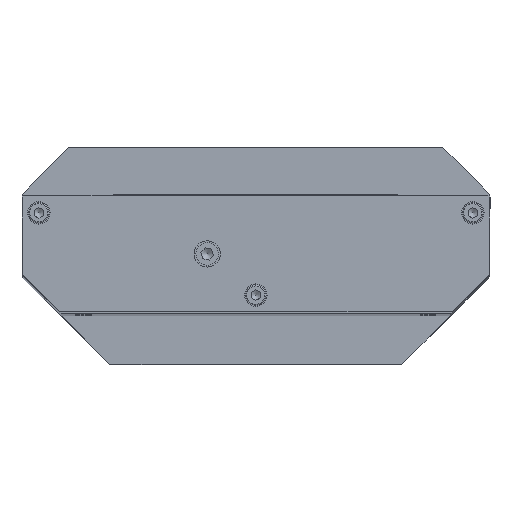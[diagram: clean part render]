
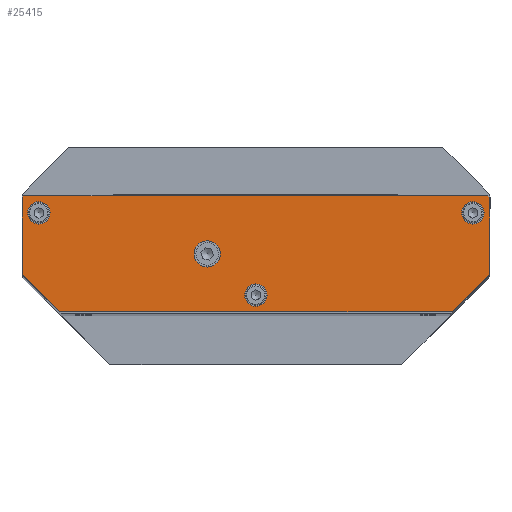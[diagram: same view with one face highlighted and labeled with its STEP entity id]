
A CAD part, top view. The second image highlights one B-rep face of the part: STEP entity #25415.
In plain terms, the highlighted planar face has unit normal (0, 0, 1).
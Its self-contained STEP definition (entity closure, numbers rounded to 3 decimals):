
#25300=CARTESIAN_POINT('',(62.5,-14.757,9.0));
#25301=DIRECTION('',(0.0,0.0,1.0));
#25302=DIRECTION('',(1.0,0.0,0.0));
#25303=AXIS2_PLACEMENT_3D('',#25300,#25301,#25302);
#25304=PLANE('',#25303);
#25305=CARTESIAN_POINT('',(124.5,0.0,9.0));
#25306=VERTEX_POINT('',#25305);
#25307=CARTESIAN_POINT('',(125.0,-0.5,9.0));
#25308=VERTEX_POINT('',#25307);
#25309=CARTESIAN_POINT('',(124.5,0.0,9.0));
#25310=DIRECTION('',(0.707,-0.707,0.0));
#25311=VECTOR('',#25310,0.707);
#25312=LINE('',#25309,#25311);
#25313=EDGE_CURVE('',#25306,#25308,#25312,.T.);
#25314=ORIENTED_EDGE('',*,*,#25313,.F.);
#25315=CARTESIAN_POINT('',(0.5,0.0,9.0));
#25316=VERTEX_POINT('',#25315);
#25317=CARTESIAN_POINT('',(0.5,0.0,9.0));
#25318=DIRECTION('',(1.0,0.0,0.0));
#25319=VECTOR('',#25318,124.0);
#25320=LINE('',#25317,#25319);
#25321=EDGE_CURVE('',#25316,#25306,#25320,.T.);
#25322=ORIENTED_EDGE('',*,*,#25321,.F.);
#25323=CARTESIAN_POINT('',(0.,-0.5,9.0));
#25324=VERTEX_POINT('',#25323);
#25325=CARTESIAN_POINT('',(0.,-0.5,9.0));
#25326=DIRECTION('',(0.707,0.707,0.0));
#25327=VECTOR('',#25326,0.707);
#25328=LINE('',#25325,#25327);
#25329=EDGE_CURVE('',#25324,#25316,#25328,.T.);
#25330=ORIENTED_EDGE('',*,*,#25329,.F.);
#25331=CARTESIAN_POINT('',(0.,-21.0,9.0));
#25332=VERTEX_POINT('',#25331);
#25333=CARTESIAN_POINT('',(0.,-21.0,9.0));
#25334=DIRECTION('',(0.0,1.0,0.0));
#25335=VECTOR('',#25334,20.5);
#25336=LINE('',#25333,#25335);
#25337=EDGE_CURVE('',#25332,#25324,#25336,.T.);
#25338=ORIENTED_EDGE('',*,*,#25337,.F.);
#25339=CARTESIAN_POINT('',(10.,-31.0,9.0));
#25340=VERTEX_POINT('',#25339);
#25341=CARTESIAN_POINT('',(10.,-31.0,9.0));
#25342=DIRECTION('',(-0.707,0.707,0.0));
#25343=VECTOR('',#25342,14.142);
#25344=LINE('',#25341,#25343);
#25345=EDGE_CURVE('',#25340,#25332,#25344,.T.);
#25346=ORIENTED_EDGE('',*,*,#25345,.F.);
#25347=CARTESIAN_POINT('',(115.,-31.0,9.0));
#25348=VERTEX_POINT('',#25347);
#25349=CARTESIAN_POINT('',(115.,-31.0,9.0));
#25350=DIRECTION('',(-1.0,0.0,0.0));
#25351=VECTOR('',#25350,105.);
#25352=LINE('',#25349,#25351);
#25353=EDGE_CURVE('',#25348,#25340,#25352,.T.);
#25354=ORIENTED_EDGE('',*,*,#25353,.F.);
#25355=CARTESIAN_POINT('',(125.,-21.0,9.0));
#25356=VERTEX_POINT('',#25355);
#25357=CARTESIAN_POINT('',(125.,-21.0,9.0));
#25358=DIRECTION('',(-0.707,-0.707,0.0));
#25359=VECTOR('',#25358,14.142);
#25360=LINE('',#25357,#25359);
#25361=EDGE_CURVE('',#25356,#25348,#25360,.T.);
#25362=ORIENTED_EDGE('',*,*,#25361,.F.);
#25363=CARTESIAN_POINT('',(125.0,-0.5,9.0));
#25364=DIRECTION('',(0.0,-1.0,0.0));
#25365=VECTOR('',#25364,20.5);
#25366=LINE('',#25363,#25365);
#25367=EDGE_CURVE('',#25308,#25356,#25366,.T.);
#25368=ORIENTED_EDGE('',*,*,#25367,.F.);
#25369=EDGE_LOOP('',(#25314,#25322,#25330,#25338,#25346,#25354,#25362,#25368));
#25370=FACE_OUTER_BOUND('',#25369,.T.);
#25371=CARTESIAN_POINT('',(53.0,-15.5,9.));
#25372=VERTEX_POINT('',#25371);
#25373=CARTESIAN_POINT('',(49.5,-15.5,9.));
#25374=DIRECTION('',(0.0,0.0,-1.0));
#25375=DIRECTION('',(-1.0,0.0,0.0));
#25376=AXIS2_PLACEMENT_3D('',#25373,#25374,#25375);
#25377=CIRCLE('',#25376,3.5);
#25378=EDGE_CURVE('',#25372,#25372,#25377,.T.);
#25379=ORIENTED_EDGE('',*,*,#25378,.T.);
#25380=EDGE_LOOP('',(#25379));
#25381=FACE_BOUND('',#25380,.T.);
#25382=CARTESIAN_POINT('',(65.5,-26.5,9.0));
#25383=VERTEX_POINT('',#25382);
#25384=CARTESIAN_POINT('',(62.5,-26.5,9.0));
#25385=DIRECTION('',(0.0,0.0,-1.0));
#25386=DIRECTION('',(1.0,0.0,0.0));
#25387=AXIS2_PLACEMENT_3D('',#25384,#25385,#25386);
#25388=CIRCLE('',#25387,3.);
#25389=EDGE_CURVE('',#25383,#25383,#25388,.T.);
#25390=ORIENTED_EDGE('',*,*,#25389,.T.);
#25391=EDGE_LOOP('',(#25390));
#25392=FACE_BOUND('',#25391,.T.);
#25393=CARTESIAN_POINT('',(123.5,-4.5,9.0));
#25394=VERTEX_POINT('',#25393);
#25395=CARTESIAN_POINT('',(120.5,-4.5,9.0));
#25396=DIRECTION('',(0.0,0.0,-1.0));
#25397=DIRECTION('',(1.0,0.0,0.0));
#25398=AXIS2_PLACEMENT_3D('',#25395,#25396,#25397);
#25399=CIRCLE('',#25398,3.);
#25400=EDGE_CURVE('',#25394,#25394,#25399,.T.);
#25401=ORIENTED_EDGE('',*,*,#25400,.T.);
#25402=EDGE_LOOP('',(#25401));
#25403=FACE_BOUND('',#25402,.T.);
#25404=CARTESIAN_POINT('',(7.5,-4.5,9.0));
#25405=VERTEX_POINT('',#25404);
#25406=CARTESIAN_POINT('',(4.5,-4.5,9.0));
#25407=DIRECTION('',(0.0,0.0,-1.0));
#25408=DIRECTION('',(1.0,0.0,0.0));
#25409=AXIS2_PLACEMENT_3D('',#25406,#25407,#25408);
#25410=CIRCLE('',#25409,3.);
#25411=EDGE_CURVE('',#25405,#25405,#25410,.T.);
#25412=ORIENTED_EDGE('',*,*,#25411,.T.);
#25413=EDGE_LOOP('',(#25412));
#25414=FACE_BOUND('',#25413,.T.);
#25415=ADVANCED_FACE('',(#25370,#25381,#25392,#25403,#25414),#25304,.T.);
